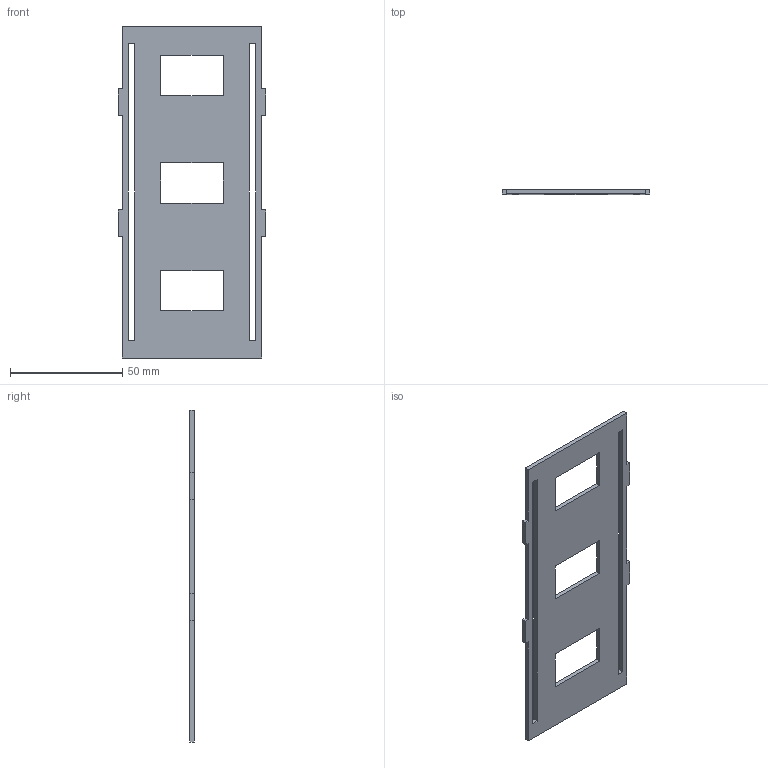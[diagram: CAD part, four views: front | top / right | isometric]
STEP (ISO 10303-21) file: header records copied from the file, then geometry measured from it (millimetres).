
FILE_DESCRIPTION(('Open CASCADE Model'),'2;1');
FILE_NAME('Open CASCADE Shape Model','2026-09-12T16:48:05',('Author'),( 'Open CASCADE'),'Open CASCADE STEP processor 7.9','Open CASCADE 7.9' ,'Unknown');
FILE_SCHEMA(('AUTOMOTIVE_DESIGN { 1 0 10303 214 1 1 1 1 }'));
Length unit declared in the file: millimetre
Products named in the file (1): Open CASCADE STEP translator 7.9 3
Bounding box: 65.6 x 2 x 148 mm (x, y, z)
Volume: 13916.8 mm3; surface area: 16417.6 mm2
Topology: 1 solids, 1 shells, 42 faces, 120 edges, 80 vertices
Faces by surface type: plane 42
Entity records: 2878 total; most frequent: CARTESIAN_POINT 539, DIRECTION 390, LINE 304, VECTOR 304, ORIENTED_EDGE 240, PCURVE 240, DEFINITIONAL_REPRESENTATION 240, EDGE_CURVE 120
